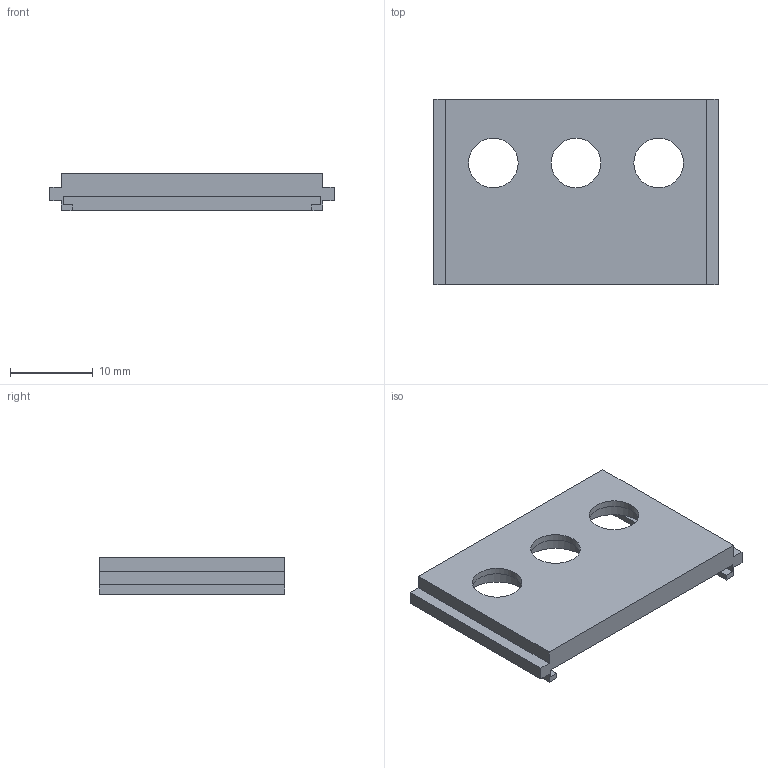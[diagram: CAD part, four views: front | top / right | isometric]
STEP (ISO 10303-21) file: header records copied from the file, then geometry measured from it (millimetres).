
FILE_DESCRIPTION(('Open CASCADE Model'),'2;1');
FILE_NAME('Open CASCADE Shape Model','2026-09-28T00:01:43',('Author'),( 'Open CASCADE'),'Open CASCADE STEP processor 7.8','Open CASCADE 7.8' ,'Unknown');
FILE_SCHEMA(('AUTOMOTIVE_DESIGN { 1 0 10303 214 1 1 1 1 }'));
Length unit declared in the file: millimetre
Products named in the file (1): Open CASCADE STEP translator 7.8 1
Bounding box: 34.4 x 22.4 x 4.5 mm (x, y, z)
Volume: 1785.6 mm3; surface area: 2239.2 mm2
Topology: 1 solids, 1 shells, 36 faces, 90 edges, 60 vertices
Faces by surface type: plane 30, cylinder 6
Full cylindrical faces by diameter (mm): 6 x3, 8.2 x3
Entity records: 2276 total; most frequent: CARTESIAN_POINT 403, DIRECTION 350, LINE 246, VECTOR 246, ORIENTED_EDGE 180, PCURVE 180, DEFINITIONAL_REPRESENTATION 180, EDGE_CURVE 90
